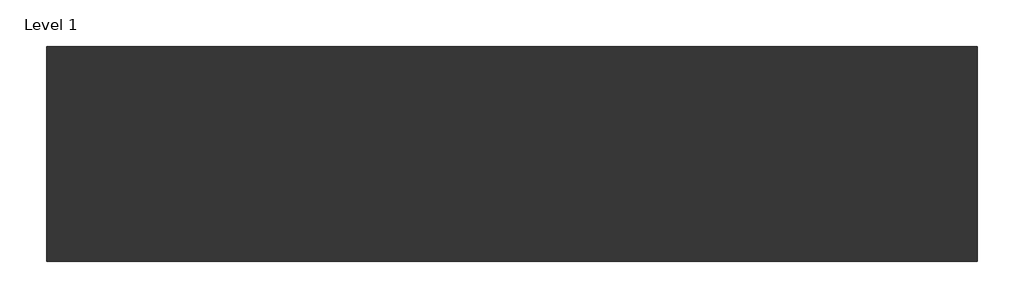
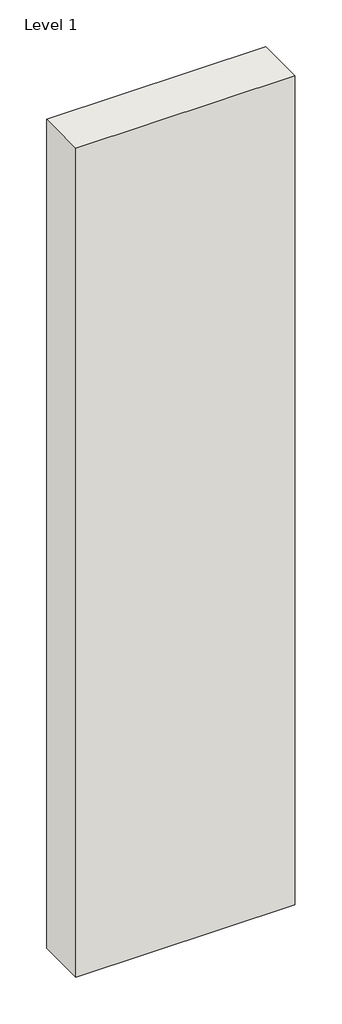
# One storey, incomplete: 1 wall.
"""IFC4 building model written with IfcOpenShell, lengths in millimetres."""

import ifcopenshell
import ifcopenshell.guid

model = None  # the IFC model being written
_history = None  # IfcOwnerHistory: only IFC2X3 demands one
_inside = {}  # id of a spatial element -> (the spatial element, [elements in it])
_under = {}  # id of a project, library or spatial element -> (it, [spatial elements below it])
_declared = {}  # id of a project -> (the project, [libraries it declares])
_typed = {}  # id of a type object -> (the type object, [elements of that type])
_made_of = {}  # id of a material, layer set ... -> (it, [elements and type objects made of it])


def new_model(schema):
    """Start an empty IFC model of exactly this schema.

    Asked for "IFC4X3", IfcOpenShell would pick the latest addendum, in which some entities
    have other attributes; the version numbers below select the first issue.
    IFC2X3 requires an IfcOwnerHistory on every rooted entity: one is made here for all.
    """
    global model, _history
    if schema == "IFC4X3":
        model = ifcopenshell.file(schema_version=(4, 3, 0, 0))
    else:
        model = ifcopenshell.file(schema=schema)
    _inside.clear()
    _under.clear()
    _declared.clear()
    _typed.clear()
    _made_of.clear()
    _history = None
    if model.schema == "IFC2X3":
        org = make("IfcOrganization", Name="unknown")
        user = make(
            "IfcPersonAndOrganization",
            ThePerson=make("IfcPerson", FamilyName="unknown"),
            TheOrganization=org,
        )
        app = make(
            "IfcApplication",
            ApplicationDeveloper=org,
            Version="unknown",
            ApplicationFullName="unknown",
            ApplicationIdentifier="unknown",
        )
        _history = make(
            "IfcOwnerHistory",
            OwningUser=user,
            OwningApplication=app,
            ChangeAction="ADDED",
            CreationDate=0,
        )
    return model


def make(cls, **values):
    """One entity of the class cls with the attributes given. An attribute that is None is left unset."""
    return model.create_entity(
        cls, **{name: value for name, value in values.items() if value is not None}
    )


def rooted(cls, **values):
    """An entity with a GlobalId (a new one), such as an element, a storey or a relation."""
    return make(cls, GlobalId=ifcopenshell.guid.new(), OwnerHistory=_history, **values)


def si_unit(unit_type, name, prefix=None):
    """IfcSIUnit, for example si_unit("LENGTHUNIT", "METRE", prefix="MILLI")."""
    return make("IfcSIUnit", UnitType=unit_type, Prefix=prefix, Name=name)


def assignment(units):
    """IfcUnitAssignment: the units of a project."""
    return None if units is None else make("IfcUnitAssignment", Units=units)


def point(xyz):
    """IfcCartesianPoint."""
    return None if xyz is None else make("IfcCartesianPoint", Coordinates=xyz)


def direction(xyz):
    """IfcDirection."""
    return None if xyz is None else make("IfcDirection", DirectionRatios=xyz)


def frame(location, z_axis=None, x_axis=None):
    """IfcAxis2Placement3D, a coordinate frame: its origin and axes. An axis left out is left unset."""
    return make(
        "IfcAxis2Placement3D",
        Location=point(location),
        Axis=direction(z_axis),
        RefDirection=direction(x_axis),
    )


def origin():
    """The frame at (0, 0, 0) with its axes left unset."""
    return frame((0.0, 0.0, 0.0))


def origin_with_axes():
    """The frame at (0, 0, 0) with the z axis (0, 0, 1) and the x axis (1, 0, 0) written out."""
    return frame((0.0, 0.0, 0.0), z_axis=(0.0, 0.0, 1.0), x_axis=(1.0, 0.0, 0.0))


def place(relative_to, where):
    """IfcLocalPlacement: puts the frame where relative to a parent placement (None: the world)."""
    return make(
        "IfcLocalPlacement", PlacementRelTo=relative_to, RelativePlacement=where
    )


def context(
    kind, dimensions, precision=None, world=None, true_north=None, identifier=None
):
    """IfcGeometricRepresentationContext, for example the 3D "Model" context."""
    return make(
        "IfcGeometricRepresentationContext",
        ContextIdentifier=identifier,
        ContextType=kind,
        CoordinateSpaceDimension=dimensions,
        Precision=precision,
        WorldCoordinateSystem=world,
        TrueNorth=true_north,
    )


def project(units=None, contexts=None):
    """IfcProject with its units and contexts."""
    return rooted(
        "IfcProject",
        Name="project",
        RepresentationContexts=contexts,
        UnitsInContext=assignment(units),
    )


def spatial(cls, under=None, at=None, **own):
    """A site, building, storey or space (cls), placed at a placement, below another one or the project."""
    s = rooted(cls, ObjectPlacement=at, **own)
    if under is not None:
        _under.setdefault(under.id(), (under, []))[1].append(s)
    return s


def polyline(points):
    """IfcPolyline through the points."""
    return make("IfcPolyline", Points=[point(p) for p in points])


def outline(outer, holes=None, kind="AREA"):
    """IfcArbitraryClosedProfileDef: a profile drawn as a closed curve; with holes, ...WithVoids."""
    if holes is None:
        return make("IfcArbitraryClosedProfileDef", ProfileType=kind, OuterCurve=outer)
    return make(
        "IfcArbitraryProfileDefWithVoids",
        ProfileType=kind,
        OuterCurve=outer,
        InnerCurves=holes,
    )


def extrude(swept, where, along, depth):
    """IfcExtrudedAreaSolid: the profile swept, set in the frame where, extruded along a direction by depth."""
    return make(
        "IfcExtrudedAreaSolid",
        SweptArea=swept,
        Position=where,
        ExtrudedDirection=direction(along),
        Depth=depth,
    )


def shape(context_of_items, identifier, shape_type, items):
    """IfcShapeRepresentation: the items that make up one representation, for example the "Body"."""
    return make(
        "IfcShapeRepresentation",
        ContextOfItems=context_of_items,
        RepresentationIdentifier=identifier,
        RepresentationType=shape_type,
        Items=items,
    )


def made_of(thing, what):
    """Note that an element or type object is made of a material, layer set ...; save() writes the relation."""
    if what is not None:
        _made_of.setdefault(what.id(), (what, []))[1].append(thing)
    return thing


def element(
    cls,
    number,
    at=None,
    inside=None,
    cuts=None,
    type_object=None,
    material=None,
    context=None,
    identifier="Body",
    shape_type=None,
    held_by="IfcProductDefinitionShape",
    body=None,
    shapes=None,
    **own,
):
    """One element of the class cls, such as IfcWall. Its Tag is "e" and its number.

    at: its placement. inside: the storey or other place that contains it. cuts: it is an
    opening in that element (IfcRelVoidsElement). A single representation is given by context,
    identifier, shape_type and body (its items); several are given by shapes. held_by: the class
    of the entity that holds the representations. save() writes the other relations.
    """
    e = rooted(cls, Tag="e%d" % number, ObjectPlacement=at, **own)
    if body is not None:
        shapes = [shape(context, identifier, shape_type, body)]
    if shapes is not None:
        e.Representation = make(held_by, Representations=shapes)
    if inside is not None:
        _inside.setdefault(inside.id(), (inside, []))[1].append(e)
    if cuts is not None:
        rooted(
            "IfcRelVoidsElement", RelatingBuildingElement=cuts, RelatedOpeningElement=e
        )
    if type_object is not None:
        _typed.setdefault(type_object.id(), (type_object, []))[1].append(e)
    return made_of(e, material)


def aggregate(whole, parts):
    """IfcRelAggregates: a whole, such as a stair, and the parts it consists of."""
    return rooted("IfcRelAggregates", RelatingObject=whole, RelatedObjects=parts)


def save(model, path):
    """Write the relations noted so far, then the file.

    IfcRelAggregates (storeys below a building ...), IfcRelContainedInSpatialStructure (elements
    in a storey), IfcRelDefinesByType, IfcRelAssociatesMaterial and IfcRelDeclares: one each for
    every whole, place, type object, material and project.
    """
    for whole, parts in _under.values():
        aggregate(whole, parts)
    for where, things in _inside.values():
        rooted(
            "IfcRelContainedInSpatialStructure",
            RelatedElements=things,
            RelatingStructure=where,
        )
    for kind, things in _typed.values():
        rooted("IfcRelDefinesByType", RelatedObjects=things, RelatingType=kind)
    for what, things in _made_of.values():
        rooted("IfcRelAssociatesMaterial", RelatedObjects=things, RelatingMaterial=what)
    for by, libraries in _declared.values():
        rooted("IfcRelDeclares", RelatingContext=by, RelatedDefinitions=libraries)
    model.write(path)


model = new_model("IFC4")

# Units and contexts
model_context = context("Model", 3, world=origin())
ifc_project = project(units=[si_unit("LENGTHUNIT", "METRE", prefix="MILLI")], contexts=[model_context])

# Site, building, storey
site = spatial("IfcSite", under=ifc_project)
building = spatial("IfcBuilding", under=site)
storey = spatial("IfcBuildingStorey", under=building, Name="Level 1", Elevation=0.0)

# Wall
placement = place(None, origin())
element("IfcWall", 1, ObjectType="Exterior - Brick on Mtl. Stud", at=placement, inside=storey, context=model_context, shape_type="SweptSolid", body=[
    extrude(outline(polyline([(2061.2582278, 2985.0044694), (3585.2582278, 2985.0044694), (3585.2582278, 2632.5794694), (2061.2582278, 2632.5794694), (2061.2582278, 2985.0044694)])), origin_with_axes(), (0.0, 0.0, 1.0), 6096.0),
])

save(model, "model.ifc")
